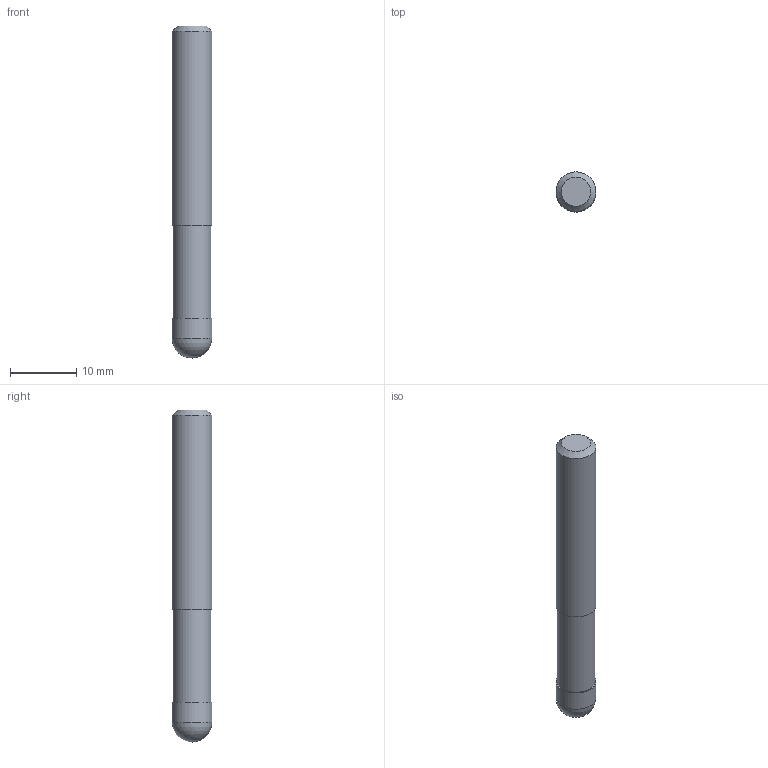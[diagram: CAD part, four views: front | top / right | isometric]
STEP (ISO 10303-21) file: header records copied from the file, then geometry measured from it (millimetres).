
FILE_DESCRIPTION((''),'2;1');
FILE_NAME('C:\Users\nsx150\AppData\Local\Temp\Mastercam 2021\QT8KEW0Y7J\TEMP.step','2021-04-23T11:22:10',(''),(''),'STEP Write','Mastercam 2021 ... CNC Software, Inc.','');
FILE_SCHEMA(('AUTOMOTIVE_DESIGN'));
Length unit declared in the file: millimetre
Products named in the file (1): None
Bounding box: 6 x 6 x 50 mm (x, y, z)
Volume: 1341.4 mm3; surface area: 1004.4 mm2
Topology: 2 solids, 2 shells, 9 faces, 13 edges, 8 vertices
Faces by surface type: plane 4, cylinder 3, sphere 1, cone 1
Full cylindrical faces by diameter (mm): 5.7 x1, 6 x2
Entity records: 211 total; most frequent: DIRECTION 36, CARTESIAN_POINT 25, AXIS2_PLACEMENT_3D 18, ORIENTED_EDGE 14, EDGE_LOOP 14, STYLED_ITEM 12, ADVANCED_FACE 9, FACE_BOUND 8
